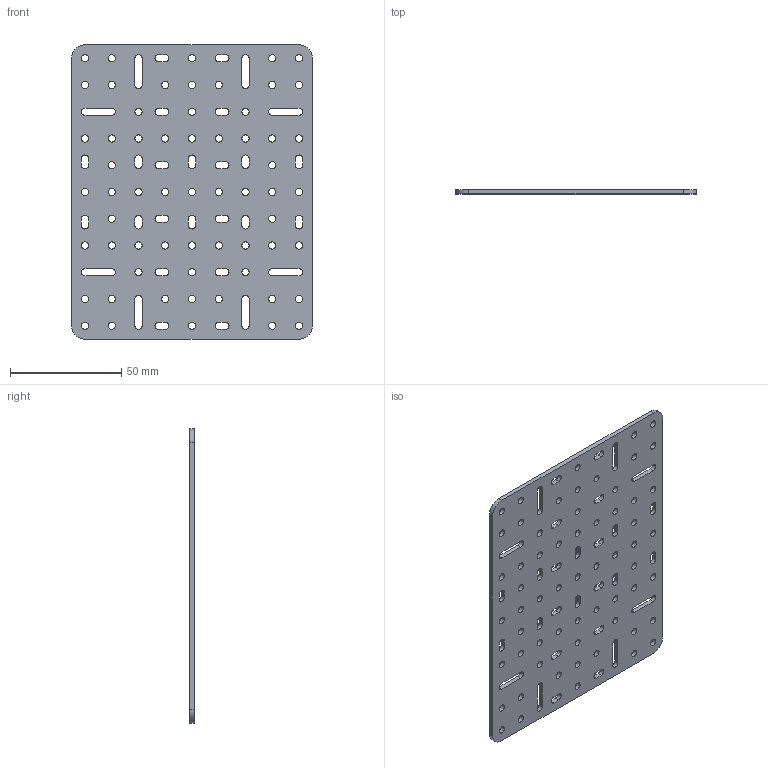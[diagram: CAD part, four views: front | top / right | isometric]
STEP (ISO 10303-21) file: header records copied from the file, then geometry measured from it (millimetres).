
FILE_DESCRIPTION (( 'STEP AP214' ), '1' );
FILE_NAME ('9x11 Plate.STEP', '2024-06-13T09:22:15', ( '' ), ( '' ), 'SwSTEP 2.0', 'SolidWorks 2023', '' );
FILE_SCHEMA (( 'AUTOMOTIVE_DESIGN' ));
Length unit declared in the file: millimetre
Products named in the file (1): 9x11 Plate
Bounding box: 108 x 2 x 132 mm (x, y, z)
Volume: 25949.7 mm3; surface area: 29366.7 mm2
Topology: 1 solids, 1 shells, 268 faces, 798 edges, 532 vertices
Faces by surface type: cylinder 202, plane 66
Entity records: 9593 total; most frequent: DIRECTION 1740, CARTESIAN_POINT 1599, ORIENTED_EDGE 1596, EDGE_CURVE 798, AXIS2_PLACEMENT_3D 673, VERTEX_POINT 532, EDGE_LOOP 450, CIRCLE 404
